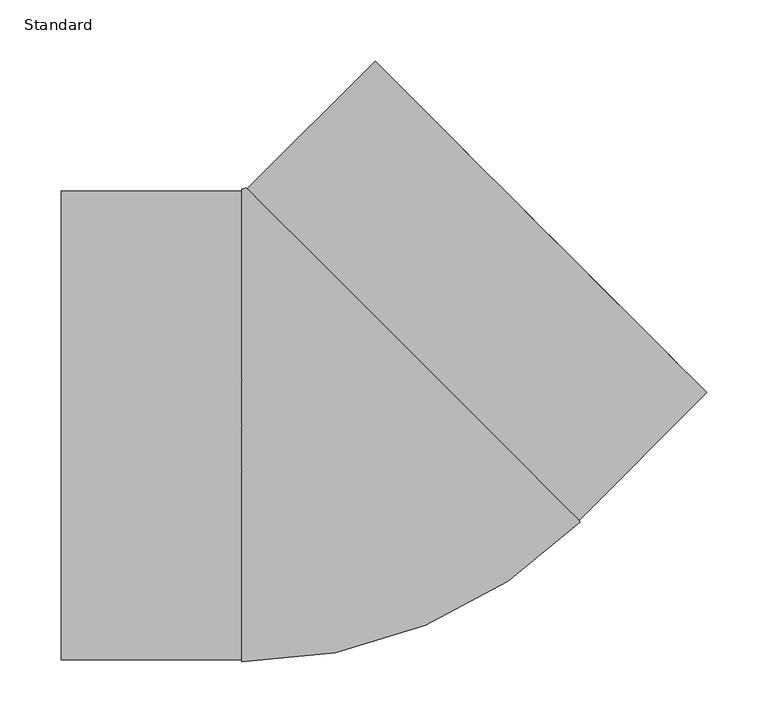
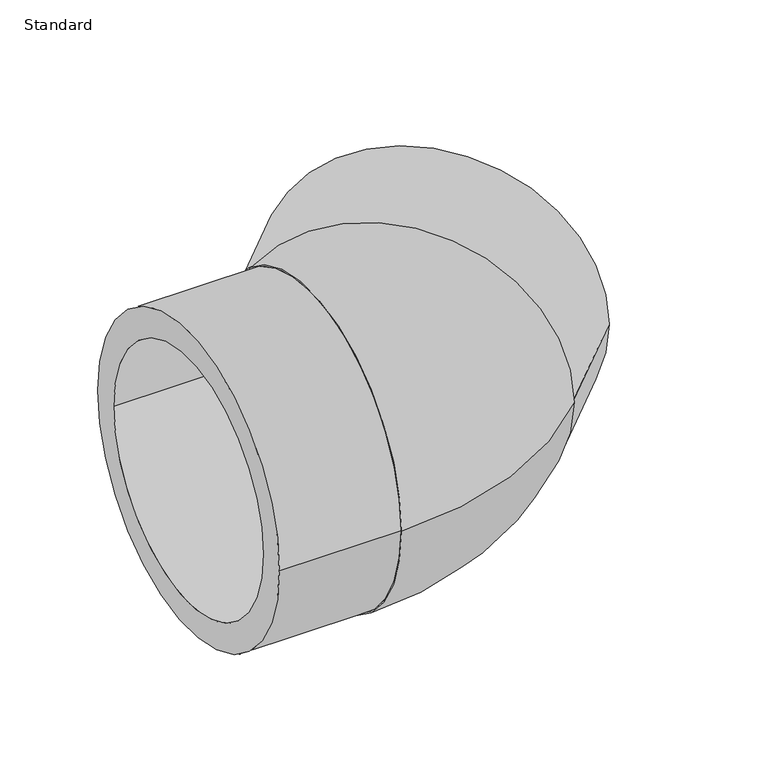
"""IFC4 building model written with IfcOpenShell, lengths in millimetres: pipe fitting geometry, EGB_VASEN_ PPR_Codo a tope 90 WXRB200_Codo a tope 45 WXRB220 : Standard."""

from ifc_helpers import new_model, si_unit, point, frame, origin, place, context, project, spatial, polyline, circle_curve, ellipse_curve, trimmed, source, transform, mapped, element, save
from ifc_brep_helpers import plane_surface, cylinder_surface, revolved_surface, advanced_brep


def standard_e35f957c(model_context):
    return source(origin(), model_context, "Body", "AdvancedBrep", [
        advanced_brep(
        [(-230.0, -192.0, 0.0), (-230.0, 192.0, 0.0), (-230.0, -157.5, 0.0), (-230.0, 157.5, 0.0), (-82.1503243, -192.0, 0.0), (-82.1503243, 192.0, 0.0), (-82.1503243, -157.5, 0.0), (-82.1503243, 157.5, 0.0), (-82.1503243, -193.5, 0.0), (-82.1503243, 193.5, 0.0), (194.9142136, -78.7361108, 0.0), (-78.7361108, 194.9142136, 0.0), (193.8535534, -77.6754506, 0.0), (-77.6754506, 193.8535534, 0.0), (169.4583694, -53.2802666, 0.0), (-53.2802666, 169.4583694, 0.0), (298.3990617, 26.8700577, 0.0), (26.8700577, 298.3990617, 0.0), (274.0038777, 51.2652416, 0.0), (51.2652416, 274.0038777, 0.0)],
        [
            (0, 1, circle_curve(frame((-230.0, 0.0, 0.0), z_axis=(-1.0, 0.0, 0.0), x_axis=(0.0, 1.0, 0.0)), 192.0)),
            (1, 0, circle_curve(frame((-230.0, 0.0, 0.0), z_axis=(-1.0, 0.0, 0.0), x_axis=(0.0, 1.0, 0.0)), 192.0)),
            (2, 3, circle_curve(frame((-230.0, 0.0, 0.0), z_axis=(1.0, 0.0, 0.0), x_axis=(0.0, 1.0, 0.0)), 157.5)),
            (3, 2, circle_curve(frame((-230.0, 0.0, 0.0), z_axis=(1.0, 0.0, 0.0), x_axis=(0.0, 1.0, 0.0)), 157.5)),
            (0, 4),
            (4, 5, circle_curve(frame((-82.1503243, 0.0, 0.0), z_axis=(-1.0, 0.0, 0.0), x_axis=(0.0, 1.0, 0.0)), 192.0)),
            (5, 1),
            (5, 4, circle_curve(frame((-82.1503243, 0.0, 0.0), z_axis=(-1.0, 0.0, 0.0), x_axis=(0.0, 1.0, 0.0)), 192.0)),
            (2, 6),
            (6, 7, circle_curve(frame((-82.1503243, 0.0, 0.0), z_axis=(1.0, 0.0, 0.0), x_axis=(0.0, 1.0, 0.0)), 157.5)),
            (7, 3),
            (7, 6, circle_curve(frame((-82.1503243, 0.0, 0.0), z_axis=(1.0, 0.0, 0.0), x_axis=(0.0, 1.0, 0.0)), 157.5)),
            (8, 9, circle_curve(frame((-82.1503243, 0.0, 0.0), z_axis=(-1.0, 0.0, 0.0), x_axis=(0.0, 1.0, 0.0)), 193.5)),
            (9, 8, circle_curve(frame((-82.1503243, 0.0, 0.0), z_axis=(-1.0, 0.0, 0.0), x_axis=(0.0, 1.0, 0.0)), 193.5)),
            (10, 11, circle_curve(frame((58.0890514, 58.0890514, 0.0), z_axis=(0.7071067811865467, 0.7071067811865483, 0.0), x_axis=(-0.7071067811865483, 0.7071067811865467, 0.0)), 193.5)),
            (11, 10, circle_curve(frame((58.0890514, 58.0890514, 0.0), z_axis=(0.7071067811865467, 0.7071067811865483, 0.0), x_axis=(-0.7071067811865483, 0.7071067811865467, 0.0)), 193.5)),
            (12, 13, circle_curve(frame((58.0890514, 58.0890514, 0.0), z_axis=(-0.7071067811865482, -0.7071067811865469, 0.0), x_axis=(-0.7071067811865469, 0.7071067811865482, 0.0)), 192.0)),
            (13, 12, circle_curve(frame((58.0890514, 58.0890514, 0.0), z_axis=(-0.7071067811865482, -0.7071067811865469, 0.0), x_axis=(-0.7071067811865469, 0.7071067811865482, 0.0)), 192.0)),
            (14, 15, circle_curve(frame((58.0890514, 58.0890514, 0.0), z_axis=(0.7071067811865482, 0.7071067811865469, 0.0), x_axis=(-0.7071067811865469, 0.7071067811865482, 0.0)), 157.5)),
            (15, 14, circle_curve(frame((58.0890514, 58.0890514, 0.0), z_axis=(0.7071067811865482, 0.7071067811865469, 0.0), x_axis=(-0.7071067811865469, 0.7071067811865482, 0.0)), 157.5)),
            (8, 10, circle_curve(frame((-82.1503243, 198.3284271, 0.0), z_axis=(0.0, 0.0, 1.0), x_axis=(0.0, -1.0, 0.0)), 391.8284271)),
            (11, 9, circle_curve(frame((-82.1503243, 198.3284271, 0.0), z_axis=(0.0, 0.0, -1.0), x_axis=(0.0, -1.0, 0.0)), 4.8284271)),
            (16, 17, circle_curve(frame((162.6345597, 162.6345597, 0.0), z_axis=(0.7071067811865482, 0.7071067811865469, 0.0), x_axis=(-0.7071067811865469, 0.7071067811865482, 0.0)), 192.0)),
            (17, 16, circle_curve(frame((162.6345597, 162.6345597, 0.0), z_axis=(0.7071067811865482, 0.7071067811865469, 0.0), x_axis=(-0.7071067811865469, 0.7071067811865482, 0.0)), 192.0)),
            (18, 19, circle_curve(frame((162.6345597, 162.6345597, 0.0), z_axis=(-0.7071067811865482, -0.7071067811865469, 0.0), x_axis=(-0.7071067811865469, 0.7071067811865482, 0.0)), 157.5)),
            (19, 18, circle_curve(frame((162.6345597, 162.6345597, 0.0), z_axis=(-0.7071067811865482, -0.7071067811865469, 0.0), x_axis=(-0.7071067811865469, 0.7071067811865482, 0.0)), 157.5)),
            (17, 13),
            (12, 16),
            (19, 15),
            (14, 18),
        ],
        [
            plane_surface(frame((-230.0, 0.0, 0.0), z_axis=(-1.0, 0.0, 0.0), x_axis=(0.0, 0.0, 1.0))),
            cylinder_surface(frame((-230.0, 0.0, 0.0), z_axis=(-1.0, 0.0, 0.0), x_axis=(0.0, 1.0, 0.0)), 192.0),
            revolved_surface(polyline([(-82.1503243, 157.5, 0.0), (-230.0, 157.5, 0.0)]), (-230.0, 0.0, 0.0), (1.0, 0.0, 0.0)),
            plane_surface(frame((-82.1503243, 0.0, 0.0), z_axis=(-1.0, 0.0, 0.0), x_axis=(0.0, 0.0, 1.0))),
            plane_surface(frame((58.0890514, 58.0890514, 0.0), z_axis=(0.7071067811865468, 0.7071067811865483, 0.0), x_axis=(0.0, 0.0, 1.0))),
            revolved_surface(trimmed(ellipse_curve(frame((-82.1503243, 0.0, 0.0), z_axis=(-1.0, 0.0, 0.0), x_axis=(0.0, 1.0, 0.0)), 193.5, 193.5), [point((-82.1503243, -193.5, 0.0))], [point((-82.1503243, 193.5, 0.0))], True, "CARTESIAN"), (-82.1503243, 198.3284271, 0.0), (0.0, 0.0, 1.0)),
            revolved_surface(trimmed(ellipse_curve(frame((-82.1503243, 0.0, 0.0), z_axis=(-1.0, 0.0, 0.0), x_axis=(0.0, 1.0, 0.0)), 193.5, 193.5), [point((-82.1503243, 193.5, 0.0))], [point((-82.1503243, -193.5, 0.0))], True, "CARTESIAN"), (-82.1503243, 198.3284271, 0.0), (0.0, 0.0, 1.0)),
            plane_surface(frame((162.6345597, 162.6345597, 0.0), z_axis=(0.7071067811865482, 0.7071067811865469, 0.0), x_axis=(0.0, 0.0, 1.0))),
            cylinder_surface(frame((58.0890514, 58.0890514, 0.0), z_axis=(-0.7071067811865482, -0.7071067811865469, 0.0), x_axis=(-0.7071067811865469, 0.7071067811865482, 0.0)), 192.0),
            revolved_surface(polyline([(51.26524166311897, 274.0038777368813, 0.0), (-53.28026663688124, 169.45836943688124, 0.0)]), (58.0890514, 58.0890514, 0.0), (0.7071067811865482, 0.7071067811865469, 0.0)),
        ],
        [
            (0, [[1, 2], [3, 4]]),
            (1, [[-1, 5, 6, 7]]),
            (1, [[-2, -7, 8, -5]]),
            (2, [[-3, 9, 10, 11]]),
            (2, [[-4, -11, 12, -9]]),
            (3, [[-10, -12]]),
            (3, [[13, 14], [-6, -8]]),
            (4, [[15, 16], [17, 18]]),
            (4, [[19, 20]]),
            (5, [[-13, 21, -16, 22]]),
            (6, [[-14, -22, -15, -21]]),
            (7, [[23, 24], [25, 26]]),
            (8, [[-24, 27, -17, 28]]),
            (8, [[-23, -28, -18, -27]]),
            (9, [[-26, 29, -19, 30]]),
            (9, [[-25, -30, -20, -29]]),
        ],
    ),
    ])


if __name__ == "__main__":
    model = new_model("IFC4")
    model_context = context("Model", 3, world=origin())
    ifc_project = project(units=[si_unit("LENGTHUNIT", "METRE", prefix="MILLI")], contexts=[model_context])
    site = spatial("IfcSite", under=ifc_project)
    building = spatial("IfcBuilding", under=site)
    placement = place(None, origin())
    standard_shape = standard_e35f957c(model_context)
    element("IfcPipeFitting", 1, ObjectType="EGB_VASEN_ PPR_Codo a tope 90 WXRB200_Codo a tope 45 WXRB220 : Standard", at=placement, inside=building, context=model_context, shape_type="MappedRepresentation", body=[
        mapped(standard_shape, transform((0.0, 0.0, 0.0), x_axis=(1.0, 0.0, 0.0), y_axis=(0.0, 1.0, 0.0), z_axis=(0.0, 0.0, 1.0))),
    ])
    save(model, "model.ifc")
